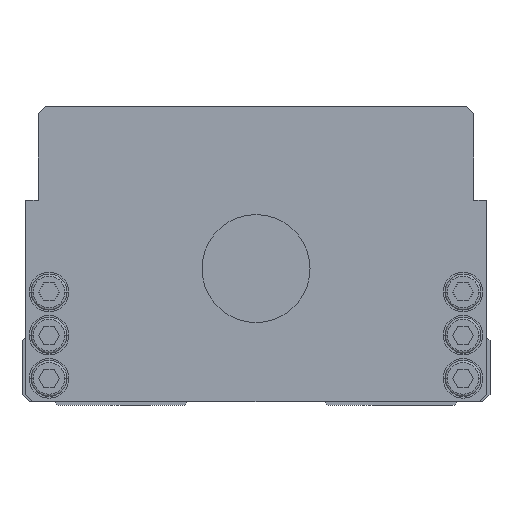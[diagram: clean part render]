
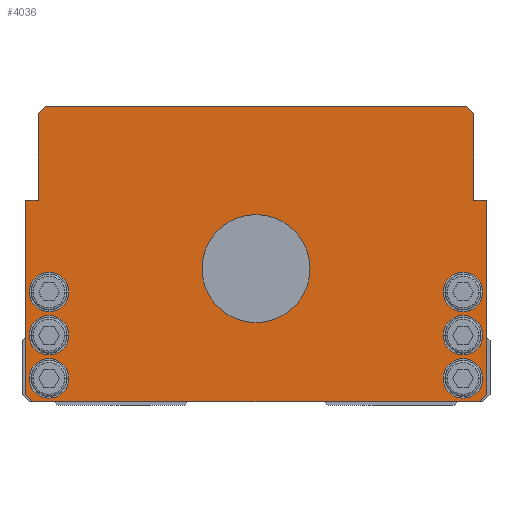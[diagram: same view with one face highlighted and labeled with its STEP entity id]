
A CAD part, front view. The second image highlights one B-rep face of the part: STEP entity #4036.
In plain terms, the highlighted planar face has unit normal (0, -1, 0).
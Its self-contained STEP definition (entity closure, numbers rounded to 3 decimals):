
#3928=EDGE_CURVE('',#4428,#4750,#11654,.T.);
#4036=ADVANCED_FACE('',(#11769,#11770,#11771,#11772,#11773,#11774,#11775,#11776),#11777,.T.);
#4428=VERTEX_POINT('',#12220);
#4444=VERTEX_POINT('',#12241);
#4516=EDGE_CURVE('',#5744,#7906,#12318,.T.);
#4520=VERTEX_POINT('',#12322);
#4564=EDGE_CURVE('',#8380,#5140,#12371,.T.);
#4730=EDGE_CURVE('',#7906,#5744,#12548,.T.);
#4734=VERTEX_POINT('',#12552);
#4750=VERTEX_POINT('',#12571);
#4780=VERTEX_POINT('',#12606);
#4902=EDGE_CURVE('',#6560,#6650,#12740,.T.);
#5140=VERTEX_POINT('',#13000);
#5226=VERTEX_POINT('',#13096);
#5356=EDGE_CURVE('',#11212,#10724,#13242,.T.);
#5362=EDGE_CURVE('',#4750,#4428,#13248,.T.);
#5376=VERTEX_POINT('',#13263);
#5568=EDGE_CURVE('',#7798,#4520,#13477,.T.);
#5632=EDGE_CURVE('',#4520,#8380,#13548,.T.);
#5744=VERTEX_POINT('',#13669);
#6354=EDGE_CURVE('',#6650,#6560,#14349,.T.);
#6416=EDGE_CURVE('',#5140,#7882,#14416,.T.);
#6560=VERTEX_POINT('',#14579);
#6650=VERTEX_POINT('',#14676);
#7272=VERTEX_POINT('',#15385);
#7424=EDGE_CURVE('',#10980,#7798,#15553,.T.);
#7450=EDGE_CURVE('',#4444,#7272,#15579,.T.);
#7798=VERTEX_POINT('',#15971);
#7824=EDGE_CURVE('',#4780,#11212,#16000,.T.);
#7882=VERTEX_POINT('',#16066);
#7906=VERTEX_POINT('',#16094);
#8098=VERTEX_POINT('',#16311);
#8380=VERTEX_POINT('',#16628);
#8932=EDGE_CURVE('',#10080,#10734,#17244,.T.);
#8950=EDGE_CURVE('',#10724,#9728,#17264,.T.);
#8960=EDGE_CURVE('',#5376,#10584,#17274,.T.);
#9276=EDGE_CURVE('',#10584,#5376,#17623,.T.);
#9568=EDGE_CURVE('',#5226,#9670,#17952,.T.);
#9622=EDGE_CURVE('',#7272,#4444,#18015,.T.);
#9670=VERTEX_POINT('',#18067);
#9728=VERTEX_POINT('',#18137);
#9880=EDGE_CURVE('',#4734,#10980,#18297,.T.);
#9932=EDGE_CURVE('',#9670,#5226,#18350,.T.);
#10040=EDGE_CURVE('',#7882,#8098,#18474,.T.);
#10080=VERTEX_POINT('',#18520);
#10274=EDGE_CURVE('',#10734,#10080,#18740,.T.);
#10418=EDGE_CURVE('',#9728,#4734,#18897,.T.);
#10584=VERTEX_POINT('',#19079);
#10724=VERTEX_POINT('',#19230);
#10734=VERTEX_POINT('',#19240);
#10912=EDGE_CURVE('',#8098,#4780,#19450,.T.);
#10980=VERTEX_POINT('',#19522);
#11212=VERTEX_POINT('',#19783);
#11654=CIRCLE('',#20287,5.5);
#11769=FACE_BOUND('',#20442,.T.);
#11770=FACE_BOUND('',#20443,.T.);
#11771=FACE_BOUND('',#20444,.T.);
#11772=FACE_BOUND('',#20445,.T.);
#11773=FACE_BOUND('',#20446,.T.);
#11774=FACE_BOUND('',#20447,.T.);
#11775=FACE_BOUND('',#20448,.T.);
#11776=FACE_OUTER_BOUND('',#20449,.T.);
#11777=PLANE('',#20450);
#12220=CARTESIAN_POINT('',(63.0,0.0,19.5));
#12241=CARTESIAN_POINT('',(-52.0,0.0,19.5));
#12318=CIRCLE('',#21189,15.0);
#12322=CARTESIAN_POINT('',(-64.0,0.0,57.0));
#12371=LINE('',#21263,#21264);
#12548=CIRCLE('',#21519,15.0);
#12552=CARTESIAN_POINT('',(62.0,0.0,1.0));
#12571=CARTESIAN_POINT('',(52.0,0.0,19.5));
#12606=CARTESIAN_POINT('',(60.5,0.0,81.0));
#12740=CIRCLE('',#21787,5.5);
#13000=CARTESIAN_POINT('',(-60.5,0.0,81.0));
#13096=CARTESIAN_POINT('',(-52.0,0.0,31.5));
#13242=LINE('',#22479,#22480);
#13248=CIRCLE('',#22490,5.5);
#13263=CARTESIAN_POINT('',(63.0,0.0,7.5));
#13477=LINE('',#22812,#22813);
#13548=LINE('',#22915,#22916);
#13669=CARTESIAN_POINT('',(-15.0,0.0,38.0));
#14349=CIRCLE('',#24042,5.5);
#14416=LINE('',#24135,#24136);
#14579=CARTESIAN_POINT('',(52.0,0.0,31.5));
#14676=CARTESIAN_POINT('',(63.0,0.0,31.5));
#15385=CARTESIAN_POINT('',(-63.0,0.0,19.5));
#15553=LINE('',#25687,#25688);
#15579=CIRCLE('',#25722,5.5);
#15971=CARTESIAN_POINT('',(-64.0,0.0,3.0));
#16000=LINE('',#26286,#26287);
#16066=CARTESIAN_POINT('',(-58.5,0.0,83.0));
#16094=CARTESIAN_POINT('',(15.0,0.0,38.0));
#16311=CARTESIAN_POINT('',(58.5,0.0,83.0));
#16628=CARTESIAN_POINT('',(-60.5,0.0,57.0));
#17244=CIRCLE('',#27973,5.5);
#17264=LINE('',#28002,#28003);
#17274=CIRCLE('',#28019,5.5);
#17623=CIRCLE('',#28478,5.5);
#17952=CIRCLE('',#28919,5.5);
#18015=CIRCLE('',#28992,5.5);
#18067=CARTESIAN_POINT('',(-63.0,0.0,31.5));
#18137=CARTESIAN_POINT('',(64.0,0.0,3.0));
#18297=LINE('',#29378,#29379);
#18350=CIRCLE('',#29453,5.5);
#18474=LINE('',#29617,#29618);
#18520=CARTESIAN_POINT('',(-63.0,0.0,7.5));
#18740=CIRCLE('',#30002,5.5);
#18897=LINE('',#30215,#30216);
#19079=CARTESIAN_POINT('',(52.0,0.0,7.5));
#19230=CARTESIAN_POINT('',(64.0,0.0,57.0));
#19240=CARTESIAN_POINT('',(-52.0,0.0,7.5));
#19450=LINE('',#30967,#30968);
#19522=CARTESIAN_POINT('',(-62.0,0.0,1.0));
#19783=CARTESIAN_POINT('',(60.5,0.0,57.0));
#20287=AXIS2_PLACEMENT_3D('',#32059,#32060,#32061);
#20442=EDGE_LOOP('',(#32169,#32170));
#20443=EDGE_LOOP('',(#32171,#32172));
#20444=EDGE_LOOP('',(#32173,#32174));
#20445=EDGE_LOOP('',(#32175,#32176));
#20446=EDGE_LOOP('',(#32177,#32178));
#20447=EDGE_LOOP('',(#32179,#32180));
#20448=EDGE_LOOP('',(#32181,#32182));
#20449=EDGE_LOOP('',(#32183,#32184,#32185,#32186,#32187,#32188,#32189,#32190,#32191,#32192,#32193,#32194));
#20450=AXIS2_PLACEMENT_3D('',#32195,#32196,#32197);
#21189=AXIS2_PLACEMENT_3D('',#32887,#32888,#32889);
#21263=CARTESIAN_POINT('',(-60.5,0.0,81.0));
#21264=VECTOR('',#32960,1.0);
#21519=AXIS2_PLACEMENT_3D('',#33117,#33118,#33119);
#21787=AXIS2_PLACEMENT_3D('',#33359,#33360,#33361);
#22479=CARTESIAN_POINT('',(64.0,0.0,57.0));
#22480=VECTOR('',#33900,1.0);
#22490=AXIS2_PLACEMENT_3D('',#33905,#33906,#33907);
#22812=CARTESIAN_POINT('',(-64.0,0.0,57.0));
#22813=VECTOR('',#34172,1.0);
#22915=CARTESIAN_POINT('',(-60.5,0.0,57.0));
#22916=VECTOR('',#34260,1.0);
#24042=AXIS2_PLACEMENT_3D('',#35158,#35159,#35160);
#24135=CARTESIAN_POINT('',(-58.5,0.0,83.0));
#24136=VECTOR('',#35231,1.);
#25687=CARTESIAN_POINT('',(-64.0,0.0,3.0));
#25688=VECTOR('',#36640,1.);
#25722=AXIS2_PLACEMENT_3D('',#36647,#36648,#36649);
#26286=CARTESIAN_POINT('',(60.5,0.0,57.0));
#26287=VECTOR('',#37125,1.0);
#27973=AXIS2_PLACEMENT_3D('',#38659,#38660,#38661);
#28002=CARTESIAN_POINT('',(64.0,0.0,3.0));
#28003=VECTOR('',#38685,1.0);
#28019=AXIS2_PLACEMENT_3D('',#38691,#38692,#38693);
#28478=AXIS2_PLACEMENT_3D('',#39110,#39111,#39112);
#28919=AXIS2_PLACEMENT_3D('',#39564,#39565,#39566);
#28992=AXIS2_PLACEMENT_3D('',#39615,#39616,#39617);
#29378=CARTESIAN_POINT('',(-62.0,0.0,1.0));
#29379=VECTOR('',#39911,1.0);
#29453=AXIS2_PLACEMENT_3D('',#39945,#39946,#39947);
#29617=CARTESIAN_POINT('',(58.5,0.0,83.0));
#29618=VECTOR('',#40103,1.0);
#30002=AXIS2_PLACEMENT_3D('',#40382,#40383,#40384);
#30215=CARTESIAN_POINT('',(62.0,0.0,1.0));
#30216=VECTOR('',#40542,1.);
#30967=CARTESIAN_POINT('',(60.5,0.0,81.0));
#30968=VECTOR('',#41150,1.);
#32059=CARTESIAN_POINT('',(57.5,0.0,19.5));
#32060=DIRECTION('',(-0.0,1.0,0.0));
#32061=DIRECTION('',(1.0,0.0,0.0));
#32169=ORIENTED_EDGE('',*,*,#4730,.T.);
#32170=ORIENTED_EDGE('',*,*,#4516,.T.);
#32171=ORIENTED_EDGE('',*,*,#6354,.T.);
#32172=ORIENTED_EDGE('',*,*,#4902,.T.);
#32173=ORIENTED_EDGE('',*,*,#3928,.T.);
#32174=ORIENTED_EDGE('',*,*,#5362,.T.);
#32175=ORIENTED_EDGE('',*,*,#8960,.T.);
#32176=ORIENTED_EDGE('',*,*,#9276,.T.);
#32177=ORIENTED_EDGE('',*,*,#9568,.T.);
#32178=ORIENTED_EDGE('',*,*,#9932,.T.);
#32179=ORIENTED_EDGE('',*,*,#7450,.T.);
#32180=ORIENTED_EDGE('',*,*,#9622,.T.);
#32181=ORIENTED_EDGE('',*,*,#10274,.T.);
#32182=ORIENTED_EDGE('',*,*,#8932,.T.);
#32183=ORIENTED_EDGE('',*,*,#7424,.F.);
#32184=ORIENTED_EDGE('',*,*,#9880,.F.);
#32185=ORIENTED_EDGE('',*,*,#10418,.F.);
#32186=ORIENTED_EDGE('',*,*,#8950,.F.);
#32187=ORIENTED_EDGE('',*,*,#5356,.F.);
#32188=ORIENTED_EDGE('',*,*,#7824,.F.);
#32189=ORIENTED_EDGE('',*,*,#10912,.F.);
#32190=ORIENTED_EDGE('',*,*,#10040,.F.);
#32191=ORIENTED_EDGE('',*,*,#6416,.F.);
#32192=ORIENTED_EDGE('',*,*,#4564,.F.);
#32193=ORIENTED_EDGE('',*,*,#5632,.F.);
#32194=ORIENTED_EDGE('',*,*,#5568,.F.);
#32195=CARTESIAN_POINT('',(0.,0.0,41.562));
#32196=DIRECTION('',(0.0,-1.0,0.0));
#32197=DIRECTION('',(1.0,0.0,0.0));
#32887=CARTESIAN_POINT('',(0.0,0.0,38.0));
#32888=DIRECTION('',(-0.0,1.0,0.0));
#32889=DIRECTION('',(1.0,0.0,0.0));
#32960=DIRECTION('',(0.0,0.0,1.0));
#33117=CARTESIAN_POINT('',(0.0,0.0,38.0));
#33118=DIRECTION('',(-0.0,1.0,0.0));
#33119=DIRECTION('',(1.0,0.0,0.0));
#33359=CARTESIAN_POINT('',(57.5,0.0,31.5));
#33360=DIRECTION('',(-0.0,1.0,0.0));
#33361=DIRECTION('',(1.0,0.0,0.0));
#33900=DIRECTION('',(1.0,0.0,0.0));
#33905=CARTESIAN_POINT('',(57.5,0.0,19.5));
#33906=DIRECTION('',(-0.0,1.0,0.0));
#33907=DIRECTION('',(1.0,0.0,0.0));
#34172=DIRECTION('',(0.0,0.0,1.0));
#34260=DIRECTION('',(1.0,0.0,0.0));
#35158=CARTESIAN_POINT('',(57.5,0.0,31.5));
#35159=DIRECTION('',(-0.0,1.0,0.0));
#35160=DIRECTION('',(1.0,0.0,0.0));
#35231=DIRECTION('',(0.707,0.0,0.707));
#36640=DIRECTION('',(-0.707,0.0,0.707));
#36647=CARTESIAN_POINT('',(-57.5,0.0,19.5));
#36648=DIRECTION('',(-0.0,1.0,0.0));
#36649=DIRECTION('',(1.0,0.0,0.0));
#37125=DIRECTION('',(-0.0,0.0,-1.0));
#38659=CARTESIAN_POINT('',(-57.5,0.0,7.5));
#38660=DIRECTION('',(-0.0,1.0,0.0));
#38661=DIRECTION('',(1.0,0.0,0.0));
#38685=DIRECTION('',(-0.0,0.0,-1.0));
#38691=CARTESIAN_POINT('',(57.5,0.0,7.5));
#38692=DIRECTION('',(-0.0,1.0,0.0));
#38693=DIRECTION('',(1.0,0.0,0.0));
#39110=CARTESIAN_POINT('',(57.5,0.0,7.5));
#39111=DIRECTION('',(-0.0,1.0,0.0));
#39112=DIRECTION('',(1.0,0.0,0.0));
#39564=CARTESIAN_POINT('',(-57.5,0.0,31.5));
#39565=DIRECTION('',(-0.0,1.0,0.0));
#39566=DIRECTION('',(1.0,0.0,0.0));
#39615=CARTESIAN_POINT('',(-57.5,0.0,19.5));
#39616=DIRECTION('',(-0.0,1.0,0.0));
#39617=DIRECTION('',(1.0,0.0,0.0));
#39911=DIRECTION('',(-1.0,0.0,-0.0));
#39945=CARTESIAN_POINT('',(-57.5,0.0,31.5));
#39946=DIRECTION('',(-0.0,1.0,0.0));
#39947=DIRECTION('',(1.0,0.0,0.0));
#40103=DIRECTION('',(1.0,0.0,0.0));
#40382=CARTESIAN_POINT('',(-57.5,0.0,7.5));
#40383=DIRECTION('',(-0.0,1.0,0.0));
#40384=DIRECTION('',(1.0,0.0,0.0));
#40542=DIRECTION('',(-0.707,0.0,-0.707));
#41150=DIRECTION('',(0.707,0.0,-0.707));
